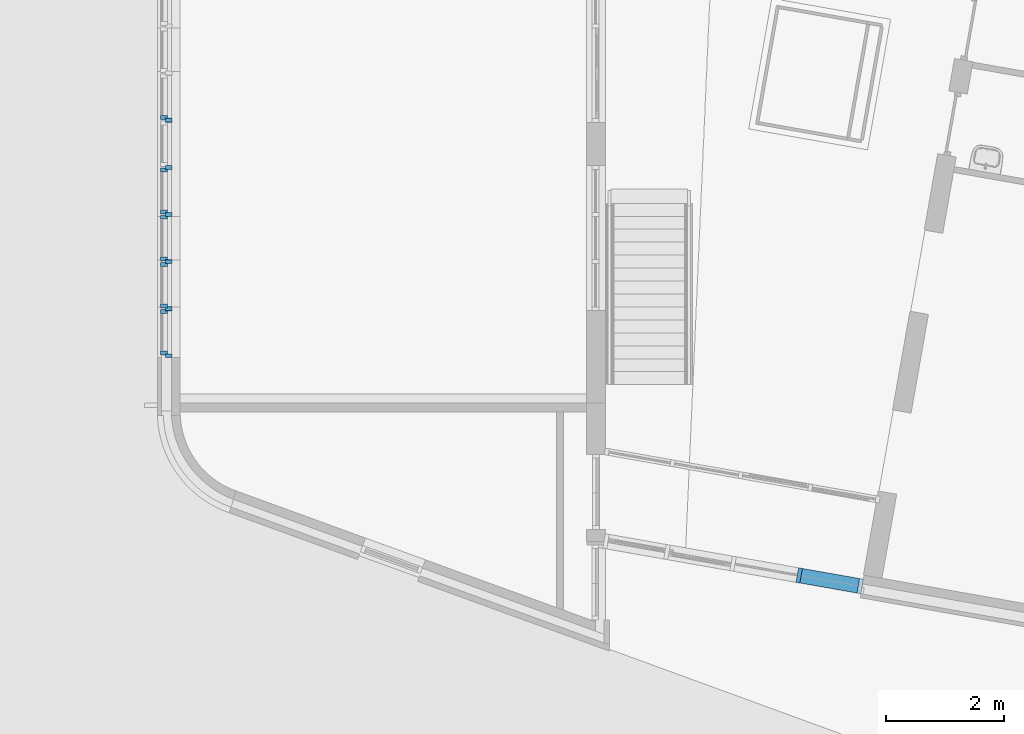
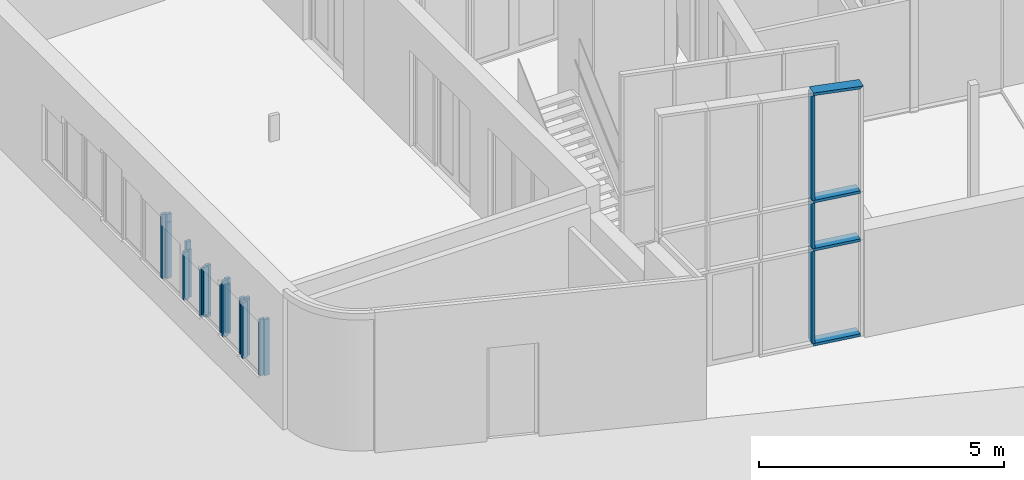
# One storey, part 2 of 21: 27 members, 12 elements without a shape of their own.
"""IFC2X3 building model written with IfcOpenShell, lengths in millimetres."""

from ifc_helpers import new_model, entity, si_unit, converted_unit, derived_unit, direction, frame, frame_2d, origin, origin_2d_with_axis, place, context, subcontext, project, spatial, polyline, rectangle, outline, extrude, clip, halfspace, bounded_halfspace, source, transform, mapped, material, type_object, type_shapes, element, aggregate, save


model = new_model("IFC2X3")

# Units and contexts
model_context = context("Model", 3, precision=0.01, world=origin(), true_north=direction((6.12303176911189e-17, 1.0)))
body_context = subcontext(model_context, "Body", "Model", "MODEL_VIEW")
ifc_project = project(units=[si_unit("LENGTHUNIT", "METRE", prefix="MILLI"), si_unit("AREAUNIT", "SQUARE_METRE"), si_unit("VOLUMEUNIT", "CUBIC_METRE"), converted_unit("PLANEANGLEUNIT", "DEGREE", entity("IfcRatioMeasure", 0.0174532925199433), si_unit("PLANEANGLEUNIT", "RADIAN"), dimensions=[0, 0, 0, 0, 0, 0, 0]), si_unit("MASSUNIT", "GRAM", prefix="KILO"), derived_unit("MASSDENSITYUNIT", [(si_unit("MASSUNIT", "GRAM", prefix="KILO"), 1), (si_unit("LENGTHUNIT", "METRE"), -3)]), derived_unit("MOMENTOFINERTIAUNIT", [(si_unit("LENGTHUNIT", "METRE"), 4)]), si_unit("TIMEUNIT", "SECOND"), si_unit("FREQUENCYUNIT", "HERTZ"), si_unit("THERMODYNAMICTEMPERATUREUNIT", "DEGREE_CELSIUS"), derived_unit("THERMALTRANSMITTANCEUNIT", [(si_unit("MASSUNIT", "GRAM", prefix="KILO"), 1), (si_unit("THERMODYNAMICTEMPERATUREUNIT", "KELVIN"), -1), (si_unit("TIMEUNIT", "SECOND"), -3)]), derived_unit("VOLUMETRICFLOWRATEUNIT", [(si_unit("LENGTHUNIT", "METRE"), 3), (si_unit("TIMEUNIT", "SECOND"), -1)]), si_unit("ELECTRICCURRENTUNIT", "AMPERE"), si_unit("ELECTRICVOLTAGEUNIT", "VOLT"), si_unit("POWERUNIT", "WATT"), si_unit("FORCEUNIT", "NEWTON", prefix="KILO"), si_unit("ILLUMINANCEUNIT", "LUX"), si_unit("LUMINOUSFLUXUNIT", "LUMEN"), si_unit("LUMINOUSINTENSITYUNIT", "CANDELA"), derived_unit("USERDEFINED", [(si_unit("MASSUNIT", "GRAM", prefix="KILO"), -1), (si_unit("LENGTHUNIT", "METRE"), -2), (si_unit("TIMEUNIT", "SECOND"), 3), (si_unit("LUMINOUSFLUXUNIT", "LUMEN"), 1)]), derived_unit("LINEARVELOCITYUNIT", [(si_unit("LENGTHUNIT", "METRE"), 1), (si_unit("TIMEUNIT", "SECOND"), -1)]), si_unit("PRESSUREUNIT", "PASCAL"), derived_unit("USERDEFINED", [(si_unit("LENGTHUNIT", "METRE"), -2), (si_unit("MASSUNIT", "GRAM", prefix="KILO"), 1), (si_unit("TIMEUNIT", "SECOND"), -2)]), derived_unit("LINEARFORCEUNIT", [(si_unit("MASSUNIT", "GRAM", prefix="KILO"), 1), (si_unit("LENGTHUNIT", "METRE"), 1), (si_unit("TIMEUNIT", "SECOND"), -2), (si_unit("LENGTHUNIT", "METRE"), -1)]), derived_unit("PLANARFORCEUNIT", [(si_unit("MASSUNIT", "GRAM", prefix="KILO"), 1), (si_unit("LENGTHUNIT", "METRE"), 1), (si_unit("TIMEUNIT", "SECOND"), -2), (si_unit("LENGTHUNIT", "METRE"), -2)])], contexts=[model_context])

# Site, building, storey
site_placement = place(None, origin())
site = spatial("IfcSite", under=ifc_project, at=site_placement, Name="<Kadaster Gemeente>;<Kadaster nummer>;<Kadaster sectie>", CompositionType="ELEMENT")
building_placement = place(site_placement, origin())
building = spatial("IfcBuilding", under=site, at=building_placement, Name="JRCZ Middelburg", CompositionType="ELEMENT")
storey_placement = place(building_placement, origin())
storey = spatial("IfcBuildingStorey", under=building, at=storey_placement, Name="00 begane grond", CompositionType="ELEMENT", Elevation=0.0)

# Curtain wall, members
curtain_wall_type_1 = type_object("IfcCurtainWallType", Name="Curtain Wall:vliesgevel A", PredefinedType="NOTDEFINED")
curtain_wall_1_placement = place(storey_placement, origin())
curtain_wall_1 = element("IfcCurtainWall", 1, at=curtain_wall_1_placement, inside=storey, type_object=curtain_wall_type_1, Name="Curtain Wall:vliesgevel A", ObjectType="Curtain Wall:vliesgevel A")
ifc_material_1 = material(Name="RBM_a_kozijn licht")
member_type_1 = type_object("IfcMemberType", Name="Rectangular Mullion:31_CWM_067x114 vliesgevel", PredefinedType="MULLION", material=ifc_material_1)
shared_shape_1 = source(origin(), body_context, "Body", "SweptSolid", [
    extrude(rectangle(XDim=250.0, YDim=67.0, at=origin_2d_with_axis()), frame((-33.5, -57.0, -1018.55875290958), z_axis=(0.0, 0.0, 1.0), x_axis=(0.0, -1.0, 0.0)), (0.0, 0.0, 1.0), 1018.55875290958),
])
type_shapes(member_type_1, [shared_shape_1])
member_1_placement = place(storey_placement, frame((21674.0808677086, 6951.80920508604, 0.0), z_axis=(0.984807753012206, -0.173648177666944, 0.0), x_axis=(0.0, 0.0, -1.0)))
member_1 = element("IfcMember", 2, at=member_1_placement, type_object=member_type_1, material=ifc_material_1, Name="Rectangular Mullion:31_CWM_067x114 vliesgevel", ObjectType="Rectangular Mullion:31_CWM_067x114 vliesgevel", context=body_context, shape_type="MappedRepresentation", body=[
    mapped(shared_shape_1, transform((0.0, 0.0, 0.0), scale=1.0)),
])
member_type_2 = type_object("IfcMemberType", Name="Rectangular Mullion:31_CWM_067x114 vliesgevel", PredefinedType="MULLION", material=ifc_material_1)
shared_shape_2 = source(origin(), body_context, "Body", "SweptSolid", [
    extrude(rectangle(XDim=250.0, YDim=67.0, at=origin_2d_with_axis()), frame((0.0, -57.0, -2299.5), z_axis=(0.0, 0.0, 1.0), x_axis=(0.0, -1.0, 0.0)), (0.0, 0.0, 1.0), 2299.5),
])
type_shapes(member_type_2, [shared_shape_2])
member_2_placement = place(storey_placement, frame((20670.9963109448, 7128.68007637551, 67.0), z_axis=(0.0, 0.0, -1.0), x_axis=(-0.984807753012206, 0.173648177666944, 0.0)))
member_2 = element("IfcMember", 3, at=member_2_placement, type_object=member_type_2, material=ifc_material_1, Name="Rectangular Mullion:31_CWM_067x114 vliesgevel", ObjectType="Rectangular Mullion:31_CWM_067x114 vliesgevel", context=body_context, shape_type="MappedRepresentation", body=[
    mapped(shared_shape_2, transform((0.0, 0.0, 0.0), scale=1.0)),
])
member_type_3 = type_object("IfcMemberType", Name="Rectangular Mullion:31_CWM_067x114 vliesgevel", PredefinedType="MULLION", material=ifc_material_1)
shared_shape_3 = source(origin(), body_context, "Body", "Clipping", [
    clip(extrude(rectangle(XDim=250.0, YDim=67.0, at=origin_2d_with_axis()), frame((-33.5, -57.0, -1088.60760546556), z_axis=(0.0, 0.0, 1.0), x_axis=(0.0, -1.0, 0.0)), (0.0, 0.0, 1.0), 1088.60760546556), halfspace(frame((0.0, -304.8, -1088.60760546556), z_axis=(-0.680150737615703, 0.0, -0.733072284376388), x_axis=(-0.733072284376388, 0.0, 0.680150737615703)), False)),
])
type_shapes(member_type_3, [shared_shape_3])
member_3_placement = place(storey_placement, frame((20670.9963109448, 7128.68007637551, 6312.21816854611), z_axis=(-0.982049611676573, 0.173161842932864, 0.0747899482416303), x_axis=(0.0736537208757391, -0.0129871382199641, 0.997199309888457)))
member_3 = element("IfcMember", 4, at=member_3_placement, type_object=member_type_3, material=ifc_material_1, Name="Rectangular Mullion:31_CWM_067x114 vliesgevel", ObjectType="Rectangular Mullion:31_CWM_067x114 vliesgevel", context=body_context, shape_type="MappedRepresentation", body=[
    mapped(shared_shape_3, transform((0.0, 0.0, 0.0), scale=1.0)),
])
member_type_4 = type_object("IfcMemberType", Name="Rectangular Mullion:31_CWM_067x114 vliesgevel", PredefinedType="MULLION", material=ifc_material_1)
shared_shape_4 = source(origin(), body_context, "Body", "SweptSolid", [
    extrude(rectangle(XDim=250.0, YDim=67.0, at=origin_2d_with_axis()), frame((0.0, -57.0, -1018.55875290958), z_axis=(0.0, 0.0, 1.0), x_axis=(0.0, -1.0, 0.0)), (0.0, 0.0, 1.0), 1018.55875290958),
])
type_shapes(member_type_4, [shared_shape_4])
member_4_placement = place(storey_placement, frame((20670.9963109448, 7128.68007637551, 2400.0), z_axis=(-0.984807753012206, 0.173648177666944, 0.0), x_axis=(0.0, 0.0, 1.0)))
member_4 = element("IfcMember", 5, at=member_4_placement, type_object=member_type_4, material=ifc_material_1, Name="Rectangular Mullion:31_CWM_067x114 vliesgevel", ObjectType="Rectangular Mullion:31_CWM_067x114 vliesgevel", context=body_context, shape_type="MappedRepresentation", body=[
    mapped(shared_shape_4, transform((0.0, 0.0, 0.0), scale=1.0)),
])
member_5_placement = place(storey_placement, frame((20670.9963109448, 7128.68007637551, 3600.0), z_axis=(-0.984807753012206, 0.173648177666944, 0.0), x_axis=(0.0, 0.0, 1.0)))
member_5 = element("IfcMember", 6, at=member_5_placement, type_object=member_type_4, material=ifc_material_1, Name="Rectangular Mullion:31_CWM_067x114 vliesgevel", ObjectType="Rectangular Mullion:31_CWM_067x114 vliesgevel", context=body_context, shape_type="MappedRepresentation", body=[
    mapped(shared_shape_4, transform((0.0, 0.0, 0.0), scale=1.0)),
])
member_type_5 = type_object("IfcMemberType", Name="Rectangular Mullion:31_CWM_067x114 vliesgevel", PredefinedType="MULLION", material=ifc_material_1)
shared_shape_5 = source(origin(), body_context, "Body", "SweptSolid", [
    extrude(rectangle(XDim=250.0, YDim=67.0, at=origin_2d_with_axis()), frame((0.0, -57.0, -1133.0), z_axis=(0.0, 0.0, 1.0), x_axis=(0.0, -1.0, 0.0)), (0.0, 0.0, 1.0), 1133.0),
])
type_shapes(member_type_5, [shared_shape_5])
member_6_placement = place(storey_placement, frame((20670.9963109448, 7128.68007637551, 2433.5), z_axis=(0.0, 0.0, -1.0), x_axis=(-0.984807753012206, 0.173648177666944, 0.0)))
member_6 = element("IfcMember", 7, at=member_6_placement, type_object=member_type_5, material=ifc_material_1, Name="Rectangular Mullion:31_CWM_067x114 vliesgevel", ObjectType="Rectangular Mullion:31_CWM_067x114 vliesgevel", context=body_context, shape_type="MappedRepresentation", body=[
    mapped(shared_shape_5, transform((0.0, 0.0, 0.0), scale=1.0)),
])
member_type_6 = type_object("IfcMemberType", Name="Rectangular Mullion:31_CWM_067x114 vliesgevel", PredefinedType="MULLION", material=ifc_material_1)
shared_shape_6 = source(origin(), body_context, "Body", "Clipping", [
    clip(clip(extrude(rectangle(XDim=250.000000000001, YDim=67.0, at=origin_2d_with_axis()), frame((0.0, -57.0, -2614.04249529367), z_axis=(0.0, 0.0, 1.0), x_axis=(0.0, -1.0, 0.0)), (0.0, 0.0, 1.0), 2614.04249529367), bounded_halfspace(frame((1144.56967944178, 68.0, -2697.3727212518), z_axis=(-0.0747899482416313, 0.0, -0.997199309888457), x_axis=(-0.997199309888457, 0.0, 0.0747899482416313)), False, frame((0.0, -57.0, -2614.04249529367), z_axis=(0.0, 0.0, 1.0), x_axis=(0.0, -1.0, 0.0)), polyline([(-125.0, 33.5), (125.0, 33.5), (125.0, 5.01092653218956), (-125.0, 5.01092653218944), (-125.0, 33.5)]))), bounded_halfspace(frame((5.01092653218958, 68.0, -2611.90581478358), z_axis=(-0.074789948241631, 0.0, -0.997199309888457), x_axis=(-0.997199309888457, 0.0, 0.074789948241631)), False, frame((0.0, -57.0, -2614.04249529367), z_axis=(0.0, 0.0, 1.0), x_axis=(0.0, -1.0, 0.0)), polyline([(125.0, 5.01092653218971), (125.0, -33.5), (-125.0, -33.5), (-125.0, 5.01092653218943), (125.0, 5.01092653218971)]))),
])
type_shapes(member_type_6, [shared_shape_6])
member_7_placement = place(storey_placement, frame((20670.9963109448, 7128.68007637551, 3633.5), z_axis=(0.0, 0.0, -1.0), x_axis=(-0.984807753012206, 0.173648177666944, 0.0)))
member_7 = element("IfcMember", 8, at=member_7_placement, type_object=member_type_6, material=ifc_material_1, Name="Rectangular Mullion:31_CWM_067x114 vliesgevel", ObjectType="Rectangular Mullion:31_CWM_067x114 vliesgevel", context=body_context, shape_type="MappedRepresentation", body=[
    mapped(shared_shape_6, transform((0.0, 0.0, 0.0), scale=1.0)),
])
aggregate(curtain_wall_1, [member_1, member_3, member_2, member_4, member_6, member_5, member_7])

curtain_wall_type_2 = type_object("IfcCurtainWallType", Name="Curtain Wall:NLRS_31_CW_hsb rek 63x196mm h.o.h. 800mm", PredefinedType="NOTDEFINED")
curtain_wall_2_placement = place(storey_placement, origin())
curtain_wall_2 = element("IfcCurtainWall", 9, at=curtain_wall_2_placement, inside=storey, type_object=curtain_wall_type_2, Name="Curtain Wall:NLRS_31_CW_hsb rek 63x196mm h.o.h. 800mm", ObjectType="Curtain Wall:NLRS_31_CW_hsb rek 63x196mm h.o.h. 800mm")
ifc_material_2 = material(Name="RBM_i2_binnenkozijn")
member_type_7 = type_object("IfcMemberType", Name="Rectangular Mullion:32_CWM_067x114", PredefinedType="MULLION", material=ifc_material_2)
shared_shape_7 = source(origin(), body_context, "Body", "SweptSolid", [
    extrude(rectangle(XDim=66.9999999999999, YDim=114.0, at=frame_2d((1.08002495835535e-12, 0.0), x_axis=(1.0, 0.0))), frame((9956.0, 13998.0, 700.0), z_axis=(0.0, 0.0, 1.0), x_axis=(0.0, -1.0, 0.0)), (0.0, 0.0, 1.0), 1200.0),
])
type_shapes(member_type_7, [shared_shape_7])
member_8_placement = place(storey_placement, origin())
member_8 = element("IfcMember", 10, at=member_8_placement, type_object=member_type_7, material=ifc_material_2, Name="Rectangular Mullion:32_CWM_067x114", ObjectType="Rectangular Mullion:32_CWM_067x114", context=body_context, shape_type="MappedRepresentation", body=[
    mapped(shared_shape_7, transform((0.0, 0.0, 0.0), scale=1.0)),
])
member_type_8 = type_object("IfcMemberType", Name="Rectangular Mullion:32_CWM_067x114", PredefinedType="MULLION", material=ifc_material_2)
shared_shape_8 = source(origin(), body_context, "Body", "SweptSolid", [
    extrude(rectangle(XDim=67.0000000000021, YDim=114.0, at=frame_2d((-1.08357767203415e-12, 0.0), x_axis=(1.0, 0.0))), frame((9956.0, 13202.0, 700.0), z_axis=(0.0, 0.0, 1.0), x_axis=(0.0, -1.0, 0.0)), (0.0, 0.0, 1.0), 1200.0),
])
type_shapes(member_type_8, [shared_shape_8])
member_9_placement = place(storey_placement, origin())
member_9 = element("IfcMember", 11, at=member_9_placement, type_object=member_type_8, material=ifc_material_2, Name="Rectangular Mullion:32_CWM_067x114", ObjectType="Rectangular Mullion:32_CWM_067x114", context=body_context, shape_type="MappedRepresentation", body=[
    mapped(shared_shape_8, transform((0.0, 0.0, 0.0), scale=1.0)),
])
aggregate(curtain_wall_2, [member_8, member_9])

curtain_wall_type_3 = type_object("IfcCurtainWallType", Name="Curtain Wall:NLRS_31_CW_Ontwerpkozijn 067x114 2", PredefinedType="NOTDEFINED")
curtain_wall_3_placement = place(storey_placement, origin())
curtain_wall_3 = element("IfcCurtainWall", 12, at=curtain_wall_3_placement, inside=storey, type_object=curtain_wall_type_3, Name="Curtain Wall:NLRS_31_CW_Ontwerpkozijn 067x114 2", ObjectType="Curtain Wall:NLRS_31_CW_Ontwerpkozijn 067x114 2")
ifc_material_3 = material(Name="RBM_a_kozijn")
member_type_9 = type_object("IfcMemberType", Name="Rectangular Mullion:31_CWM_067x114", PredefinedType="MULLION", material=ifc_material_3)
shared_shape_9 = source(origin(), body_context, "Body", "SweptSolid", [
    extrude(outline(polyline([(-37.0, -65.3333333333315), (30.0, -65.3333333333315), (30.0, 16.6666666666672), (7.0, 16.6666666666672), (7.0, 48.6666666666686), (-37.0, 48.6666666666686), (-37.0, -65.3333333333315)])), frame((9882.33333333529, 13242.4999999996, 700.0), z_axis=(0.0, 0.0, 1.0), x_axis=(0.0, -1.0, 0.0)), (0.0, 0.0, 1.0), 1200.0),
])
type_shapes(member_type_9, [shared_shape_9])
member_10_placement = place(storey_placement, origin())
member_10 = element("IfcMember", 13, at=member_10_placement, type_object=member_type_9, material=ifc_material_3, Name="Rectangular Mullion:31_CWM_067x114", ObjectType="Rectangular Mullion:31_CWM_067x114", context=body_context, shape_type="MappedRepresentation", body=[
    mapped(shared_shape_9, transform((0.0, 0.0, 0.0), scale=1.0)),
])
member_type_10 = type_object("IfcMemberType", Name="Rectangular Mullion:31_CWM_067x114", PredefinedType="MULLION", material=ifc_material_3)
shared_shape_10 = source(origin(), body_context, "Body", "SweptSolid", [
    extrude(outline(polyline([(-30.0, -65.3333333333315), (37.0, -65.3333333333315), (37.0, 48.6666666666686), (-7.0, 48.6666666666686), (-7.0, 16.6666666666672), (-30.0, 16.6666666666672), (-30.0, -65.3333333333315)])), frame((9882.3333333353, 13957.4999999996, 700.0), z_axis=(0.0, 0.0, 1.0), x_axis=(0.0, -1.0, 0.0)), (0.0, 0.0, 1.0), 1200.0),
])
type_shapes(member_type_10, [shared_shape_10])
member_11_placement = place(storey_placement, origin())
member_11 = element("IfcMember", 14, at=member_11_placement, type_object=member_type_10, material=ifc_material_3, Name="Rectangular Mullion:31_CWM_067x114", ObjectType="Rectangular Mullion:31_CWM_067x114", context=body_context, shape_type="MappedRepresentation", body=[
    mapped(shared_shape_10, transform((0.0, 0.0, 0.0), scale=1.0)),
])
aggregate(curtain_wall_3, [member_10, member_11])

# Curtain wall, member
curtain_wall_4_placement = place(storey_placement, origin())
curtain_wall_4 = element("IfcCurtainWall", 15, at=curtain_wall_4_placement, inside=storey, type_object=curtain_wall_type_2, Name="Curtain Wall:NLRS_31_CW_hsb rek 63x196mm h.o.h. 800mm", ObjectType="Curtain Wall:NLRS_31_CW_hsb rek 63x196mm h.o.h. 800mm")
member_type_11 = type_object("IfcMemberType", Name="Rectangular Mullion:32_CWM_067x114", PredefinedType="MULLION", material=ifc_material_2)
shared_shape_11 = source(origin(), body_context, "Body", "SweptSolid", [
    extrude(rectangle(XDim=67.0000000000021, YDim=114.0, at=frame_2d((-1.08357767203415e-12, 0.0), x_axis=(1.0, 0.0))), frame((9956.0, 14802.0, 700.0), z_axis=(0.0, 0.0, 1.0), x_axis=(0.0, -1.0, 0.0)), (0.0, 0.0, 1.0), 1600.0),
])
type_shapes(member_type_11, [shared_shape_11])
member_12_placement = place(storey_placement, origin())
member_12 = element("IfcMember", 16, at=member_12_placement, type_object=member_type_11, material=ifc_material_2, Name="Rectangular Mullion:32_CWM_067x114", ObjectType="Rectangular Mullion:32_CWM_067x114", context=body_context, shape_type="MappedRepresentation", body=[
    mapped(shared_shape_11, transform((0.0, 0.0, 0.0), scale=1.0)),
])
aggregate(curtain_wall_4, [member_12])

curtain_wall_5_placement = place(storey_placement, origin())
curtain_wall_5 = element("IfcCurtainWall", 17, at=curtain_wall_5_placement, inside=storey, type_object=curtain_wall_type_3, Name="Curtain Wall:NLRS_31_CW_Ontwerpkozijn 067x114 2", ObjectType="Curtain Wall:NLRS_31_CW_Ontwerpkozijn 067x114 2")
member_type_12 = type_object("IfcMemberType", Name="Rectangular Mullion:31_CWM_067x114", PredefinedType="MULLION", material=ifc_material_3)
shared_shape_12 = source(origin(), body_context, "Body", "SweptSolid", [
    extrude(outline(polyline([(-37.0, -65.3333333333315), (30.0, -65.3333333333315), (30.0, 16.6666666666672), (7.0, 16.6666666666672), (7.0, 48.6666666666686), (-37.0, 48.6666666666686), (-37.0, -65.3333333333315)])), frame((9882.3333333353, 14842.4999999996, 700.0), z_axis=(0.0, 0.0, 1.0), x_axis=(0.0, -1.0, 0.0)), (0.0, 0.0, 1.0), 1600.0),
])
type_shapes(member_type_12, [shared_shape_12])
member_13_placement = place(storey_placement, origin())
member_13 = element("IfcMember", 18, at=member_13_placement, type_object=member_type_12, material=ifc_material_3, Name="Rectangular Mullion:31_CWM_067x114", ObjectType="Rectangular Mullion:31_CWM_067x114", context=body_context, shape_type="MappedRepresentation", body=[
    mapped(shared_shape_12, transform((0.0, 0.0, 0.0), scale=1.0)),
])
aggregate(curtain_wall_5, [member_13])

# Curtain wall, members
curtain_wall_6_placement = place(storey_placement, origin())
curtain_wall_6 = element("IfcCurtainWall", 19, at=curtain_wall_6_placement, inside=storey, type_object=curtain_wall_type_2, Name="Curtain Wall:NLRS_31_CW_hsb rek 63x196mm h.o.h. 800mm", ObjectType="Curtain Wall:NLRS_31_CW_hsb rek 63x196mm h.o.h. 800mm")
member_type_13 = type_object("IfcMemberType", Name="Rectangular Mullion:32_CWM_067x114", PredefinedType="MULLION", material=ifc_material_2)
shared_shape_13 = source(origin(), body_context, "Body", "SweptSolid", [
    extrude(rectangle(XDim=66.9999999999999, YDim=114.0, at=frame_2d((1.08357767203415e-12, 1.08002495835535e-12), x_axis=(1.0, 0.0))), frame((9956.0, 11598.0, 700.0), z_axis=(0.0, 0.0, 1.0), x_axis=(0.0, -1.0, 0.0)), (0.0, 0.0, 1.0), 1400.0),
])
type_shapes(member_type_13, [shared_shape_13])
member_14_placement = place(storey_placement, origin())
member_14 = element("IfcMember", 20, at=member_14_placement, type_object=member_type_13, material=ifc_material_2, Name="Rectangular Mullion:32_CWM_067x114", ObjectType="Rectangular Mullion:32_CWM_067x114", context=body_context, shape_type="MappedRepresentation", body=[
    mapped(shared_shape_13, transform((0.0, 0.0, 0.0), scale=1.0)),
])
member_type_14 = type_object("IfcMemberType", Name="Rectangular Mullion:32_CWM_067x114", PredefinedType="MULLION", material=ifc_material_2)
shared_shape_14 = source(origin(), body_context, "Body", "SweptSolid", [
    extrude(rectangle(XDim=66.9999999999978, YDim=114.0, at=frame_2d((1.08357767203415e-12, 1.08002495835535e-12), x_axis=(1.0, 0.0))), frame((9956.0, 10802.0, 700.0), z_axis=(0.0, 0.0, 1.0), x_axis=(0.0, -1.0, 0.0)), (0.0, 0.0, 1.0), 1400.0),
])
type_shapes(member_type_14, [shared_shape_14])
member_15_placement = place(storey_placement, origin())
member_15 = element("IfcMember", 21, at=member_15_placement, type_object=member_type_14, material=ifc_material_2, Name="Rectangular Mullion:32_CWM_067x114", ObjectType="Rectangular Mullion:32_CWM_067x114", context=body_context, shape_type="MappedRepresentation", body=[
    mapped(shared_shape_14, transform((0.0, 0.0, 0.0), scale=1.0)),
])
aggregate(curtain_wall_6, [member_14, member_15])

curtain_wall_7_placement = place(storey_placement, origin())
curtain_wall_7 = element("IfcCurtainWall", 22, at=curtain_wall_7_placement, inside=storey, type_object=curtain_wall_type_3, Name="Curtain Wall:NLRS_31_CW_Ontwerpkozijn 067x114 2", ObjectType="Curtain Wall:NLRS_31_CW_Ontwerpkozijn 067x114 2")
member_type_15 = type_object("IfcMemberType", Name="Rectangular Mullion:31_CWM_067x114", PredefinedType="MULLION", material=ifc_material_3)
shared_shape_15 = source(origin(), body_context, "Body", "SweptSolid", [
    extrude(outline(polyline([(-37.0, -65.3333333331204), (30.0, -65.3333333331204), (30.0, 16.6666666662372), (7.0, 16.6666666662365), (7.0, 48.6666666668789), (-37.0, 48.6666666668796), (-37.0, -65.3333333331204)])), frame((9882.33333333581, 10842.4999999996, 700.0), z_axis=(0.0, 0.0, 1.0), x_axis=(0.0, -1.0, 0.0)), (0.0, 0.0, 1.0), 1400.0),
])
type_shapes(member_type_15, [shared_shape_15])
member_16_placement = place(storey_placement, origin())
member_16 = element("IfcMember", 23, at=member_16_placement, type_object=member_type_15, material=ifc_material_3, Name="Rectangular Mullion:31_CWM_067x114", ObjectType="Rectangular Mullion:31_CWM_067x114", context=body_context, shape_type="MappedRepresentation", body=[
    mapped(shared_shape_15, transform((0.0, 0.0, 0.0), scale=1.0)),
])
member_type_16 = type_object("IfcMemberType", Name="Rectangular Mullion:31_CWM_067x114", PredefinedType="MULLION", material=ifc_material_3)
shared_shape_16 = source(origin(), body_context, "Body", "SweptSolid", [
    extrude(outline(polyline([(-30.0, -65.3333333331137), (37.0, -65.3333333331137), (37.0, 48.6666666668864), (-7.0, 48.6666666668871), (-7.0, 16.6666666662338), (-30.0, 16.6666666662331), (-30.0, -65.3333333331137)])), frame((9882.33333333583, 11557.4999999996, 700.0), z_axis=(0.0, 0.0, 1.0), x_axis=(0.0, -1.0, 0.0)), (0.0, 0.0, 1.0), 1400.0),
])
type_shapes(member_type_16, [shared_shape_16])
member_17_placement = place(storey_placement, origin())
member_17 = element("IfcMember", 24, at=member_17_placement, type_object=member_type_16, material=ifc_material_3, Name="Rectangular Mullion:31_CWM_067x114", ObjectType="Rectangular Mullion:31_CWM_067x114", context=body_context, shape_type="MappedRepresentation", body=[
    mapped(shared_shape_16, transform((0.0, 0.0, 0.0), scale=1.0)),
])
aggregate(curtain_wall_7, [member_16, member_17])

curtain_wall_8_placement = place(storey_placement, origin())
curtain_wall_8 = element("IfcCurtainWall", 25, at=curtain_wall_8_placement, inside=storey, type_object=curtain_wall_type_2, Name="Curtain Wall:NLRS_31_CW_hsb rek 63x196mm h.o.h. 800mm", ObjectType="Curtain Wall:NLRS_31_CW_hsb rek 63x196mm h.o.h. 800mm")
member_type_17 = type_object("IfcMemberType", Name="Rectangular Mullion:32_CWM_067x114", PredefinedType="MULLION", material=ifc_material_2)
shared_shape_17 = source(origin(), body_context, "Body", "SweptSolid", [
    extrude(rectangle(XDim=66.9999999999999, YDim=114.0, at=frame_2d((1.08357767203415e-12, 1.08002495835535e-12), x_axis=(1.0, 0.0))), frame((9956.0, 12398.0, 750.0), z_axis=(0.0, 0.0, 1.0), x_axis=(0.0, -1.0, 0.0)), (0.0, 0.0, 1.0), 1400.0),
])
type_shapes(member_type_17, [shared_shape_17])
member_18_placement = place(storey_placement, origin())
member_18 = element("IfcMember", 26, at=member_18_placement, type_object=member_type_17, material=ifc_material_2, Name="Rectangular Mullion:32_CWM_067x114", ObjectType="Rectangular Mullion:32_CWM_067x114", context=body_context, shape_type="MappedRepresentation", body=[
    mapped(shared_shape_17, transform((0.0, 0.0, 0.0), scale=1.0)),
])
member_type_18 = type_object("IfcMemberType", Name="Rectangular Mullion:32_CWM_067x114", PredefinedType="MULLION", material=ifc_material_2)
shared_shape_18 = source(origin(), body_context, "Body", "SweptSolid", [
    extrude(rectangle(XDim=66.9999999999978, YDim=114.0, at=frame_2d((1.08357767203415e-12, 1.08002495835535e-12), x_axis=(1.0, 0.0))), frame((9956.0, 11602.0, 750.0), z_axis=(0.0, 0.0, 1.0), x_axis=(0.0, -1.0, 0.0)), (0.0, 0.0, 1.0), 1400.0),
])
type_shapes(member_type_18, [shared_shape_18])
member_19_placement = place(storey_placement, origin())
member_19 = element("IfcMember", 27, at=member_19_placement, type_object=member_type_18, material=ifc_material_2, Name="Rectangular Mullion:32_CWM_067x114", ObjectType="Rectangular Mullion:32_CWM_067x114", context=body_context, shape_type="MappedRepresentation", body=[
    mapped(shared_shape_18, transform((0.0, 0.0, 0.0), scale=1.0)),
])
aggregate(curtain_wall_8, [member_18, member_19])

curtain_wall_9_placement = place(storey_placement, origin())
curtain_wall_9 = element("IfcCurtainWall", 28, at=curtain_wall_9_placement, inside=storey, type_object=curtain_wall_type_3, Name="Curtain Wall:NLRS_31_CW_Ontwerpkozijn 067x114 2", ObjectType="Curtain Wall:NLRS_31_CW_Ontwerpkozijn 067x114 2")
member_type_19 = type_object("IfcMemberType", Name="Rectangular Mullion:31_CWM_067x114", PredefinedType="MULLION", material=ifc_material_3)
shared_shape_19 = source(origin(), body_context, "Body", "SweptSolid", [
    extrude(rectangle(XDim=66.9999999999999, YDim=114.0, at=frame_2d((1.08357767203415e-12, -1.08002495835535e-12), x_axis=(1.0, 0.0))), frame((9874.0, 11646.0, 750.0), z_axis=(0.0, 0.0, 1.0), x_axis=(0.0, -1.0, 0.0)), (0.0, 0.0, 1.0), 1400.0),
])
type_shapes(member_type_19, [shared_shape_19])
member_20_placement = place(storey_placement, origin())
member_20 = element("IfcMember", 29, at=member_20_placement, type_object=member_type_19, material=ifc_material_3, Name="Rectangular Mullion:31_CWM_067x114", ObjectType="Rectangular Mullion:31_CWM_067x114", context=body_context, shape_type="MappedRepresentation", body=[
    mapped(shared_shape_19, transform((0.0, 0.0, 0.0), scale=1.0)),
])
member_type_20 = type_object("IfcMemberType", Name="Rectangular Mullion:31_CWM_067x114", PredefinedType="MULLION", material=ifc_material_3)
shared_shape_20 = source(origin(), body_context, "Body", "SweptSolid", [
    extrude(rectangle(XDim=66.9999999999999, YDim=114.0, at=frame_2d((1.08357767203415e-12, 1.08002495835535e-12), x_axis=(1.0, 0.0))), frame((9874.0, 12354.0, 750.0), z_axis=(0.0, 0.0, 1.0), x_axis=(0.0, -1.0, 0.0)), (0.0, 0.0, 1.0), 1400.0),
])
type_shapes(member_type_20, [shared_shape_20])
member_21_placement = place(storey_placement, origin())
member_21 = element("IfcMember", 30, at=member_21_placement, type_object=member_type_20, material=ifc_material_3, Name="Rectangular Mullion:31_CWM_067x114", ObjectType="Rectangular Mullion:31_CWM_067x114", context=body_context, shape_type="MappedRepresentation", body=[
    mapped(shared_shape_20, transform((0.0, 0.0, 0.0), scale=1.0)),
])
aggregate(curtain_wall_9, [member_20, member_21])

curtain_wall_10_placement = place(storey_placement, origin())
curtain_wall_10 = element("IfcCurtainWall", 31, at=curtain_wall_10_placement, inside=storey, type_object=curtain_wall_type_2, Name="Curtain Wall:NLRS_31_CW_hsb rek 63x196mm h.o.h. 800mm", ObjectType="Curtain Wall:NLRS_31_CW_hsb rek 63x196mm h.o.h. 800mm")
member_type_21 = type_object("IfcMemberType", Name="Rectangular Mullion:32_CWM_067x114", PredefinedType="MULLION", material=ifc_material_2)
shared_shape_21 = source(origin(), body_context, "Body", "SweptSolid", [
    extrude(rectangle(XDim=66.9999999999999, YDim=114.0, at=frame_2d((1.08002495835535e-12, 0.0), x_axis=(1.0, 0.0))), frame((9956.0, 13198.0, 800.0), z_axis=(0.0, 0.0, 1.0), x_axis=(0.0, -1.0, 0.0)), (0.0, 0.0, 1.0), 1200.0),
])
type_shapes(member_type_21, [shared_shape_21])
member_22_placement = place(storey_placement, origin())
member_22 = element("IfcMember", 32, at=member_22_placement, type_object=member_type_21, material=ifc_material_2, Name="Rectangular Mullion:32_CWM_067x114", ObjectType="Rectangular Mullion:32_CWM_067x114", context=body_context, shape_type="MappedRepresentation", body=[
    mapped(shared_shape_21, transform((0.0, 0.0, 0.0), scale=1.0)),
])
member_type_22 = type_object("IfcMemberType", Name="Rectangular Mullion:32_CWM_067x114", PredefinedType="MULLION", material=ifc_material_2)
shared_shape_22 = source(origin(), body_context, "Body", "SweptSolid", [
    extrude(rectangle(XDim=67.0000000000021, YDim=114.0, at=frame_2d((-1.08357767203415e-12, 0.0), x_axis=(1.0, 0.0))), frame((9956.0, 12402.0, 800.0), z_axis=(0.0, 0.0, 1.0), x_axis=(0.0, -1.0, 0.0)), (0.0, 0.0, 1.0), 1200.0),
])
type_shapes(member_type_22, [shared_shape_22])
member_23_placement = place(storey_placement, origin())
member_23 = element("IfcMember", 33, at=member_23_placement, type_object=member_type_22, material=ifc_material_2, Name="Rectangular Mullion:32_CWM_067x114", ObjectType="Rectangular Mullion:32_CWM_067x114", context=body_context, shape_type="MappedRepresentation", body=[
    mapped(shared_shape_22, transform((0.0, 0.0, 0.0), scale=1.0)),
])
aggregate(curtain_wall_10, [member_22, member_23])

curtain_wall_11_placement = place(storey_placement, origin())
curtain_wall_11 = element("IfcCurtainWall", 34, at=curtain_wall_11_placement, inside=storey, type_object=curtain_wall_type_3, Name="Curtain Wall:NLRS_31_CW_Ontwerpkozijn 067x114 2", ObjectType="Curtain Wall:NLRS_31_CW_Ontwerpkozijn 067x114 2")
member_type_23 = type_object("IfcMemberType", Name="Rectangular Mullion:31_CWM_067x114", PredefinedType="MULLION", material=ifc_material_3)
shared_shape_23 = source(origin(), body_context, "Body", "SweptSolid", [
    extrude(outline(polyline([(-37.0, -65.333333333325), (30.0, -65.333333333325), (30.0, 16.6666666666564), (7.0, 16.6666666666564), (7.0, 48.6666666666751), (-37.0, 48.6666666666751), (-37.0, -65.333333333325)])), frame((9882.33333333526, 12442.4999999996, 800.0), z_axis=(0.0, 0.0, 1.0), x_axis=(0.0, -1.0, 0.0)), (0.0, 0.0, 1.0), 1200.0),
])
type_shapes(member_type_23, [shared_shape_23])
member_24_placement = place(storey_placement, origin())
member_24 = element("IfcMember", 35, at=member_24_placement, type_object=member_type_23, material=ifc_material_3, Name="Rectangular Mullion:31_CWM_067x114", ObjectType="Rectangular Mullion:31_CWM_067x114", context=body_context, shape_type="MappedRepresentation", body=[
    mapped(shared_shape_23, transform((0.0, 0.0, 0.0), scale=1.0)),
])
member_type_24 = type_object("IfcMemberType", Name="Rectangular Mullion:31_CWM_067x114", PredefinedType="MULLION", material=ifc_material_3)
shared_shape_24 = source(origin(), body_context, "Body", "SweptSolid", [
    extrude(outline(polyline([(-30.0, -65.3333333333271), (37.0, -65.3333333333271), (37.0, 48.6666666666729), (-7.0, 48.6666666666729), (-7.0, 16.6666666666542), (-30.0, 16.6666666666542), (-30.0, -65.3333333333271)])), frame((9882.33333333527, 13157.4999999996, 800.0), z_axis=(0.0, 0.0, 1.0), x_axis=(0.0, -1.0, 0.0)), (0.0, 0.0, 1.0), 1200.0),
])
type_shapes(member_type_24, [shared_shape_24])
member_25_placement = place(storey_placement, origin())
member_25 = element("IfcMember", 36, at=member_25_placement, type_object=member_type_24, material=ifc_material_3, Name="Rectangular Mullion:31_CWM_067x114", ObjectType="Rectangular Mullion:31_CWM_067x114", context=body_context, shape_type="MappedRepresentation", body=[
    mapped(shared_shape_24, transform((0.0, 0.0, 0.0), scale=1.0)),
])
aggregate(curtain_wall_11, [member_24, member_25])

curtain_wall_12_placement = place(storey_placement, origin())
curtain_wall_12 = element("IfcCurtainWall", 37, at=curtain_wall_12_placement, inside=storey, type_object=curtain_wall_type_2, Name="Curtain Wall:NLRS_31_CW_hsb rek 63x196mm h.o.h. 800mm", ObjectType="Curtain Wall:NLRS_31_CW_hsb rek 63x196mm h.o.h. 800mm")
member_type_25 = type_object("IfcMemberType", Name="Rectangular Mullion:32_CWM_067x114", PredefinedType="MULLION", material=ifc_material_2)
shared_shape_25 = source(origin(), body_context, "Body", "SweptSolid", [
    extrude(rectangle(XDim=66.9999999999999, YDim=114.0, at=frame_2d((1.08357767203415e-12, 1.08002495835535e-12), x_axis=(1.0, 0.0))), frame((9956.0, 14798.0, 700.0), z_axis=(0.0, 0.0, 1.0), x_axis=(0.0, -1.0, 0.0)), (0.0, 0.0, 1.0), 1400.0),
])
type_shapes(member_type_25, [shared_shape_25])
member_26_placement = place(storey_placement, origin())
member_26 = element("IfcMember", 38, at=member_26_placement, type_object=member_type_25, material=ifc_material_2, Name="Rectangular Mullion:32_CWM_067x114", ObjectType="Rectangular Mullion:32_CWM_067x114", context=body_context, shape_type="MappedRepresentation", body=[
    mapped(shared_shape_25, transform((0.0, 0.0, 0.0), scale=1.0)),
])
member_type_26 = type_object("IfcMemberType", Name="Rectangular Mullion:32_CWM_067x114", PredefinedType="MULLION", material=ifc_material_2)
shared_shape_26 = source(origin(), body_context, "Body", "SweptSolid", [
    extrude(rectangle(XDim=66.9999999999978, YDim=114.0, at=frame_2d((1.08357767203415e-12, 1.08002495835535e-12), x_axis=(1.0, 0.0))), frame((9956.0, 14002.0, 700.0), z_axis=(0.0, 0.0, 1.0), x_axis=(0.0, -1.0, 0.0)), (0.0, 0.0, 1.0), 1400.0),
])
type_shapes(member_type_26, [shared_shape_26])
member_27_placement = place(storey_placement, origin())
member_27 = element("IfcMember", 39, at=member_27_placement, type_object=member_type_26, material=ifc_material_2, Name="Rectangular Mullion:32_CWM_067x114", ObjectType="Rectangular Mullion:32_CWM_067x114", context=body_context, shape_type="MappedRepresentation", body=[
    mapped(shared_shape_26, transform((0.0, 0.0, 0.0), scale=1.0)),
])
aggregate(curtain_wall_12, [member_26, member_27])

save(model, "model.ifc")
